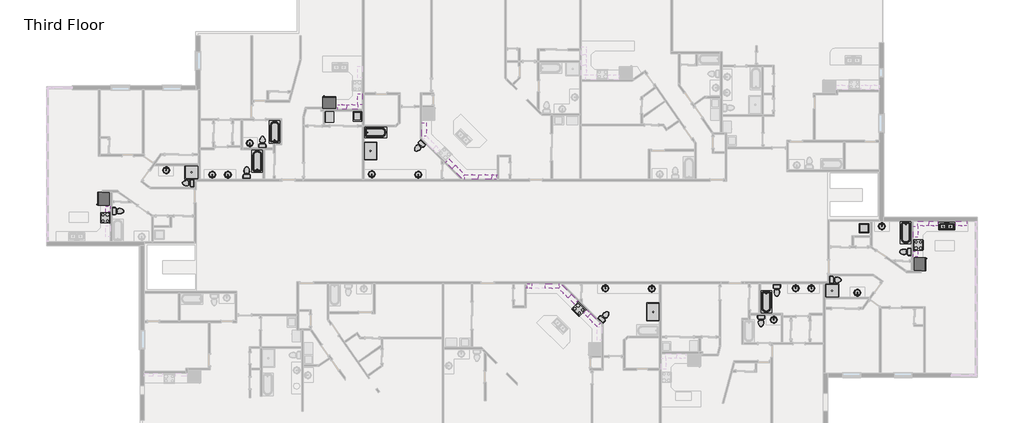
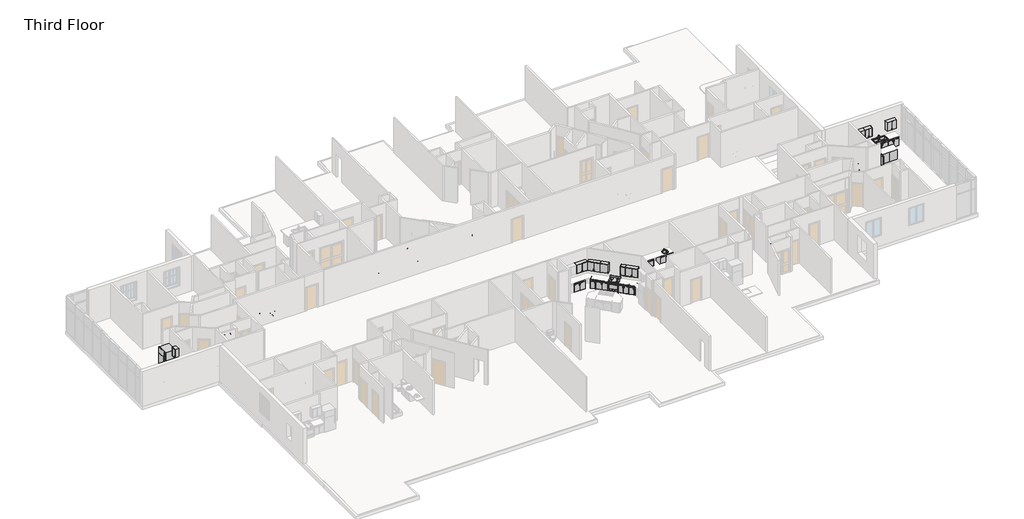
# One storey, part 15 of 17: 66 furniture elements, 33 flow terminals, 9 proxies.
"""IFC4 building model written with IfcOpenShell, lengths in millimetres."""

from ifc_helpers import new_model, si_unit, origin, place, context, project, spatial, transform, mapped, element, save
from components import proxy_6b4a07a9, proxy_fbb4c072, proxy_9109806d, proxy_718fa39f, proxy_f3e01b1d, flow_terminal_54cced83, flow_terminal_5dba0d75, flow_terminal_a53be723, flow_terminal_d49f872f, toilet_domestic_3d_toilet_domestic_3d_f7549cf7, toilet_domestic_3d_toilet_domestic_3d_183bbd19, toilet_domestic_3d_toilet_domestic_3d_a08e12bc, toilet_domestic_3d_toilet_domestic_3d_5530cc89, tub_rectangular_3d_tub_rectangular_3d_72a4d900, tub_rectangular_3d_tub_rectangular_3d_cbc2c449, furniture_0fc2bd2a, furniture_6e8794dd, furniture_07bc9410, furniture_94ff1b7c, furniture_6a014568, furniture_338da5bd, furniture_7de88fd5, furniture_695a55eb, furniture_b6fbc004, furniture_bfd559e3, base_cabinet_filler_base_cabinet_filler_2f0b3f4e, base_cabinet_filler_base_cabinet_filler_5f1ac9d6, base_cabinet_filler_base_cabinet_filler_83579e99, furniture_de2c603d, furniture_b1f16c95, furniture_c6a3367d, upper_cabinet_filler_wall_upper_cabinet_filler_wall_ebdf5134, furniture_d9efccb3, furniture_13c6450d, furniture_a47b5ef4, furniture_b880e30f, furniture_9117db5d, furniture_b34976c1, furniture_fa9c5d5b

model = new_model("IFC4")

# Units and contexts
model_context = context("Model", 3, world=origin())
ifc_project = project(units=[si_unit("LENGTHUNIT", "METRE", prefix="MILLI")], contexts=[model_context])

# Site, building, storey
site = spatial("IfcSite", under=ifc_project)
building = spatial("IfcBuilding", under=site)
storey = spatial("IfcBuildingStorey", under=building, Name="Third Floor", Elevation=6096.0)

# Proxies
placement = place(None, origin())
proxy_shape = proxy_6b4a07a9(model_context)
element("IfcBuildingElementProxy", 1, Name="Dryer : 30\" x 25\" x 35\"", ObjectType="Dryer : 30\" x 25\" x 35\"", at=placement, inside=storey, context=model_context, shape_type="MappedRepresentation", body=[
    mapped(proxy_shape, transform((20016.6056012, 6188.6428501, 6096.0), x_axis=(0.0, 1.0, 0.0), y_axis=(-1.0, 0.0, 0.0), z_axis=(0.0, 0.0, 1.0))),
])
proxy_2_shape = proxy_fbb4c072(model_context)
element("IfcBuildingElementProxy", 2, Name="Range : 30\" x 26\"", ObjectType="Range : 30\" x 26\"", at=placement, inside=storey, context=model_context, shape_type="MappedRepresentation", body=[
    mapped(proxy_2_shape, transform((4220.3003923, 131.5202225, 6096.0), x_axis=(0.0, -1.0, 0.0), y_axis=(1.0, 0.0, 0.0), z_axis=(0.0, 0.0, 1.0))),
])
element("IfcBuildingElementProxy", 3, Name="Range : 30\" x 26\"", ObjectType="Range : 30\" x 26\"", at=placement, inside=storey, context=model_context, shape_type="MappedRepresentation", body=[
    mapped(proxy_2_shape, transform((36146.5032482, -6394.5854043, 6096.0), x_axis=(0.7071067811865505, -0.7071067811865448, 0.0), y_axis=(0.7071067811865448, 0.7071067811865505, 0.0), z_axis=(0.0, 0.0, 1.0))),
])
element("IfcBuildingElementProxy", 4, Name="Range : 30\" x 26\"", ObjectType="Range : 30\" x 26\"", at=placement, inside=storey, context=model_context, shape_type="MappedRepresentation", body=[
    mapped(proxy_2_shape, transform((59969.853994, -2480.7028474, 6096.0), x_axis=(0.0, 1.0, 0.0), y_axis=(-1.0, 0.0, 0.0), z_axis=(0.0, 0.0, 1.0))),
])
proxy_3_shape = proxy_9109806d(model_context)
element("IfcBuildingElementProxy", 5, Name="Refrigerator : 35\" x 32\" RH", ObjectType="Refrigerator : 35\" x 32\" RH", at=placement, inside=storey, context=model_context, shape_type="MappedRepresentation", body=[
    mapped(proxy_3_shape, transform((4425.725539, 1036.2685137, 6096.0), x_axis=(0.0, -1.0, 0.0), y_axis=(1.0, 0.0, 0.0), z_axis=(0.0, 0.0, 1.0))),
])
element("IfcBuildingElementProxy", 6, Name="Refrigerator : 35\" x 32\" RH", ObjectType="Refrigerator : 35\" x 32\" RH", at=placement, inside=storey, context=model_context, shape_type="MappedRepresentation", body=[
    mapped(proxy_3_shape, transform((19720.4542781, 7559.8584529, 6096.0), x_axis=(-1.0, 0.0, 0.0), y_axis=(0.0, -1.0, 0.0), z_axis=(0.0, 0.0, 1.0))),
])
element("IfcBuildingElementProxy", 7, Name="Refrigerator : 35\" x 32\" RH", ObjectType="Refrigerator : 35\" x 32\" RH", at=placement, inside=storey, context=model_context, shape_type="MappedRepresentation", body=[
    mapped(proxy_3_shape, transform((59764.4288473, -3385.4511385, 6096.0), x_axis=(0.0, 1.0, 0.0), y_axis=(-1.0, 0.0, 0.0), z_axis=(0.0, 0.0, 1.0))),
])
proxy_4_shape = proxy_718fa39f(model_context)
element("IfcBuildingElementProxy", 8, Name="Washer : 27\" x 25\" x 35\"", ObjectType="Washer : 27\" x 25\" x 35\"", at=placement, inside=storey, context=model_context, shape_type="MappedRepresentation", body=[
    mapped(proxy_4_shape, transform((21369.2577923, 7066.4225435, 6096.0), x_axis=(0.0, -1.0, 0.0), y_axis=(1.0, 0.0, 0.0), z_axis=(0.0, 0.0, 1.0))),
])
proxy_5_shape = proxy_f3e01b1d(model_context)
element("IfcBuildingElementProxy", 9, Name="Washer_Dryer_Combo : 24\"", ObjectType="Washer_Dryer_Combo : 24\"", at=placement, inside=storey, context=model_context, shape_type="MappedRepresentation", body=[
    mapped(proxy_5_shape, transform((56408.3907443, -949.2863988, 6096.0), x_axis=(0.0, -1.0, 0.0), y_axis=(1.0, 0.0, 0.0), z_axis=(0.0, 0.0, 1.0))),
])

# Flow terminals
flow_terminal_shape = flow_terminal_54cced83(model_context)
element("IfcFlowTerminal", 10, ObjectType="Shower Base-3D : 36\" x 36\"", at=placement, inside=storey, context=model_context, shape_type="MappedRepresentation", body=[
    mapped(flow_terminal_shape, transform((10380.0467971, 2838.6124849, 6096.0), x_axis=(0.0, 1.0, 0.0), y_axis=(-1.0, 0.0, 0.0), z_axis=(0.0, 0.0, 1.0))),
])
element("IfcFlowTerminal", 11, ObjectType="Shower Base-3D : 36\" x 36\"", at=placement, inside=storey, context=model_context, shape_type="MappedRepresentation", body=[
    mapped(flow_terminal_shape, transform((53810.1075892, -5187.7951097, 6096.0), x_axis=(0.0, -1.0, 0.0), y_axis=(1.0, 0.0, 0.0), z_axis=(0.0, 0.0, 1.0))),
])
flow_terminal_2_shape = flow_terminal_5dba0d75(model_context)
element("IfcFlowTerminal", 12, ObjectType="Shower Base-3D : 48\" x 34\"", at=placement, inside=storey, context=model_context, shape_type="MappedRepresentation", body=[
    mapped(flow_terminal_2_shape, transform((22513.3830518, 4283.4091714, 6096.0), x_axis=(0.0, -1.0, 0.0), y_axis=(1.0, 0.0, 0.0), z_axis=(0.0, 0.0, 1.0))),
])
element("IfcFlowTerminal", 13, ObjectType="Shower Base-3D : 48\" x 34\"", at=placement, inside=storey, context=model_context, shape_type="MappedRepresentation", body=[
    mapped(flow_terminal_2_shape, transform((41676.7713345, -6632.5917963, 6096.0), x_axis=(0.0, 1.0, 0.0), y_axis=(-1.0, 0.0, 0.0), z_axis=(0.0, 0.0, 1.0))),
])
flow_terminal_3_shape = flow_terminal_a53be723(model_context)
element("IfcFlowTerminal", 14, ObjectType="Sink Kitchen-Double : 42\" x 21\"", at=placement, inside=storey, context=model_context, shape_type="MappedRepresentation", body=[
    mapped(flow_terminal_3_shape, transform((61579.7647534, -809.7591569, 6096.0), x_axis=(1.0, 0.0, 0.0), y_axis=(0.0, 1.0, 0.0), z_axis=(0.0, 0.0, 1.0))),
])
flow_terminal_4_shape = flow_terminal_d49f872f(model_context)
element("IfcFlowTerminal", 15, ObjectType="Sink Vanity-Round : 19\" x 19\"", at=placement, inside=storey, context=model_context, shape_type="MappedRepresentation", body=[
    mapped(flow_terminal_4_shape, transform((14429.6552962, 4892.9733129, 6096.0), x_axis=(-1.0, 0.0, 0.0), y_axis=(0.0, -1.0, 0.0), z_axis=(0.0, 0.0, 1.0))),
])
element("IfcFlowTerminal", 16, ObjectType="Sink Vanity-Round : 19\" x 19\"", at=placement, inside=storey, context=model_context, shape_type="MappedRepresentation", body=[
    mapped(flow_terminal_4_shape, transform((8560.7111773, 2889.4483435, 6096.0), x_axis=(1.0, 0.0, 0.0), y_axis=(0.0, 1.0, 0.0), z_axis=(0.0, 0.0, 1.0))),
])
element("IfcFlowTerminal", 17, ObjectType="Sink Vanity-Round : 19\" x 19\"", at=placement, inside=storey, context=model_context, shape_type="MappedRepresentation", body=[
    mapped(flow_terminal_4_shape, transform((12946.89091, 2757.2346539, 6096.0), x_axis=(-1.0, 0.0, 0.0), y_axis=(0.0, -1.0, 0.0), z_axis=(0.0, 0.0, 1.0))),
])
element("IfcFlowTerminal", 18, ObjectType="Sink Vanity-Round : 19\" x 19\"", at=placement, inside=storey, context=model_context, shape_type="MappedRepresentation", body=[
    mapped(flow_terminal_4_shape, transform((11880.09091, 2769.0116592, 6096.0), x_axis=(-1.0, 0.0, 0.0), y_axis=(0.0, -1.0, 0.0), z_axis=(0.0, 0.0, 1.0))),
])
element("IfcFlowTerminal", 19, ObjectType="Sink Vanity-Round : 19\" x 19\"", at=placement, inside=storey, context=model_context, shape_type="MappedRepresentation", body=[
    mapped(flow_terminal_4_shape, transform((25848.431225, 2766.506956, 6096.0), x_axis=(-0.9999992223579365, 0.0012471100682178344, 0.0), y_axis=(-0.0012471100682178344, -0.9999992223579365, 0.0), z_axis=(0.0, 0.0, 1.0))),
])
element("IfcFlowTerminal", 20, ObjectType="Sink Vanity-Round : 19\" x 19\"", at=placement, inside=storey, context=model_context, shape_type="MappedRepresentation", body=[
    mapped(flow_terminal_4_shape, transform((22697.558797, 2783.0261745, 6096.0), x_axis=(-0.9999968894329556, 0.002494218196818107, 0.0), y_axis=(-0.002494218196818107, -0.9999968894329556, 0.0), z_axis=(0.0, 0.0, 1.0))),
])
element("IfcFlowTerminal", 21, ObjectType="Sink Vanity-Round : 19\" x 19\"", at=placement, inside=storey, context=model_context, shape_type="MappedRepresentation", body=[
    mapped(flow_terminal_4_shape, transform((49760.4990901, -7242.1559377, 6096.0), x_axis=(1.0, 0.0, 0.0), y_axis=(0.0, 1.0, 0.0), z_axis=(0.0, 0.0, 1.0))),
])
element("IfcFlowTerminal", 22, ObjectType="Sink Vanity-Round : 19\" x 19\"", at=placement, inside=storey, context=model_context, shape_type="MappedRepresentation", body=[
    mapped(flow_terminal_4_shape, transform((57094.1764749, -902.6278973, 6096.0), x_axis=(1.0, 0.0, 0.0), y_axis=(0.0, 1.0, 0.0), z_axis=(0.0, 0.0, 1.0))),
])
element("IfcFlowTerminal", 23, ObjectType="Sink Vanity-Round : 19\" x 19\"", at=placement, inside=storey, context=model_context, shape_type="MappedRepresentation", body=[
    mapped(flow_terminal_4_shape, transform((55629.443209, -5238.6309683, 6096.0), x_axis=(-1.0, 0.0, 0.0), y_axis=(0.0, -1.0, 0.0), z_axis=(0.0, 0.0, 1.0))),
])
element("IfcFlowTerminal", 24, ObjectType="Sink Vanity-Round : 19\" x 19\"", at=placement, inside=storey, context=model_context, shape_type="MappedRepresentation", body=[
    mapped(flow_terminal_4_shape, transform((51243.2634763, -5106.4172787, 6096.0), x_axis=(1.0, 0.0, 0.0), y_axis=(0.0, 1.0, 0.0), z_axis=(0.0, 0.0, 1.0))),
])
element("IfcFlowTerminal", 25, ObjectType="Sink Vanity-Round : 19\" x 19\"", at=placement, inside=storey, context=model_context, shape_type="MappedRepresentation", body=[
    mapped(flow_terminal_4_shape, transform((52310.0634763, -5118.194284, 6096.0), x_axis=(1.0, 0.0, 0.0), y_axis=(0.0, 1.0, 0.0), z_axis=(0.0, 0.0, 1.0))),
])
element("IfcFlowTerminal", 26, ObjectType="Sink Vanity-Round : 19\" x 19\"", at=placement, inside=storey, context=model_context, shape_type="MappedRepresentation", body=[
    mapped(flow_terminal_4_shape, transform((38341.7231613, -5115.6895809, 6096.0), x_axis=(0.9999992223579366, -0.0012471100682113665, 0.0), y_axis=(0.0012471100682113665, 0.9999992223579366, 0.0), z_axis=(0.0, 0.0, 1.0))),
])
element("IfcFlowTerminal", 27, ObjectType="Sink Vanity-Round : 19\" x 19\"", at=placement, inside=storey, context=model_context, shape_type="MappedRepresentation", body=[
    mapped(flow_terminal_4_shape, transform((41492.5955893, -5132.2087994, 6096.0), x_axis=(0.9999968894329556, -0.0024942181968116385, 0.0), y_axis=(0.0024942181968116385, 0.9999968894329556, 0.0), z_axis=(0.0, 0.0, 1.0))),
])
toilet_domestic_3d_toilet_domestic_3d_shape = toilet_domestic_3d_toilet_domestic_3d_f7549cf7(model_context)
toilet_domestic_3d_toilet_domestic_3d_2_shape = toilet_domestic_3d_toilet_domestic_3d_183bbd19(model_context)
element("IfcFlowTerminal", 28, ObjectType="Toilet-Domestic-3D : Toilet-Domestic-3D", at=placement, inside=storey, context=model_context, shape_type="MappedRepresentation", body=[
    mapped(toilet_domestic_3d_toilet_domestic_3d_shape, transform((14122.4, 2916.9069921, 6096.0), x_axis=(-1.0, 0.0, 0.0), y_axis=(0.0, -1.0, 0.0), z_axis=(0.0, 0.0, 1.0))),
    mapped(toilet_domestic_3d_toilet_domestic_3d_2_shape, transform((14122.4, 2916.9069921, 6096.0), x_axis=(-1.0, 0.0, 0.0), y_axis=(0.0, -1.0, 0.0), z_axis=(0.0, 0.0, 1.0))),
])
element("IfcFlowTerminal", 29, ObjectType="Toilet-Domestic-3D : Toilet-Domestic-3D", at=placement, inside=storey, context=model_context, shape_type="MappedRepresentation", body=[
    mapped(toilet_domestic_3d_toilet_domestic_3d_shape, transform((15189.2, 4981.3051988, 6096.0), x_axis=(-1.0, 0.0, 0.0), y_axis=(0.0, -1.0, 0.0), z_axis=(0.0, 0.0, 1.0))),
    mapped(toilet_domestic_3d_toilet_domestic_3d_2_shape, transform((15189.2, 4981.3051988, 6096.0), x_axis=(-1.0, 0.0, 0.0), y_axis=(0.0, -1.0, 0.0), z_axis=(0.0, 0.0, 1.0))),
])
element("IfcFlowTerminal", 30, ObjectType="Toilet-Domestic-3D : Toilet-Domestic-3D", at=placement, inside=storey, context=model_context, shape_type="MappedRepresentation", body=[
    mapped(toilet_domestic_3d_toilet_domestic_3d_shape, transform((5489.6964197, 205.0443161, 6096.0), x_axis=(0.0, 1.0, 0.0), y_axis=(-1.0, 0.0, 0.0), z_axis=(0.0, 0.0, 1.0))),
    mapped(toilet_domestic_3d_toilet_domestic_3d_2_shape, transform((5489.6964197, 205.0443161, 6096.0), x_axis=(0.0, 1.0, 0.0), y_axis=(-1.0, 0.0, 0.0), z_axis=(0.0, 0.0, 1.0))),
])
element("IfcFlowTerminal", 31, ObjectType="Toilet-Domestic-3D : Toilet-Domestic-3D", at=placement, inside=storey, context=model_context, shape_type="MappedRepresentation", body=[
    mapped(toilet_domestic_3d_toilet_domestic_3d_shape, transform((50067.7543863, -5266.0896169, 6096.0), x_axis=(1.0, 0.0, 0.0), y_axis=(0.0, 1.0, 0.0), z_axis=(0.0, 0.0, 1.0))),
    mapped(toilet_domestic_3d_toilet_domestic_3d_2_shape, transform((50067.7543863, -5266.0896169, 6096.0), x_axis=(1.0, 0.0, 0.0), y_axis=(0.0, 1.0, 0.0), z_axis=(0.0, 0.0, 1.0))),
])
element("IfcFlowTerminal", 32, ObjectType="Toilet-Domestic-3D : Toilet-Domestic-3D", at=placement, inside=storey, context=model_context, shape_type="MappedRepresentation", body=[
    mapped(toilet_domestic_3d_toilet_domestic_3d_shape, transform((49000.9543863, -7330.4878236, 6096.0), x_axis=(1.0, 0.0, 0.0), y_axis=(0.0, 1.0, 0.0), z_axis=(0.0, 0.0, 1.0))),
    mapped(toilet_domestic_3d_toilet_domestic_3d_2_shape, transform((49000.9543863, -7330.4878236, 6096.0), x_axis=(1.0, 0.0, 0.0), y_axis=(0.0, 1.0, 0.0), z_axis=(0.0, 0.0, 1.0))),
])
element("IfcFlowTerminal", 33, ObjectType="Toilet-Domestic-3D : Toilet-Domestic-3D", at=placement, inside=storey, context=model_context, shape_type="MappedRepresentation", body=[
    mapped(toilet_domestic_3d_toilet_domestic_3d_shape, transform((58700.4579666, -2554.2269409, 6096.0), x_axis=(0.0, -1.0, 0.0), y_axis=(1.0, 0.0, 0.0), z_axis=(0.0, 0.0, 1.0))),
    mapped(toilet_domestic_3d_toilet_domestic_3d_2_shape, transform((58700.4579666, -2554.2269409, 6096.0), x_axis=(0.0, -1.0, 0.0), y_axis=(1.0, 0.0, 0.0), z_axis=(0.0, 0.0, 1.0))),
])
toilet_domestic_3d_toilet_domestic_3d_3_shape = toilet_domestic_3d_toilet_domestic_3d_a08e12bc(model_context)
toilet_domestic_3d_toilet_domestic_3d_4_shape = toilet_domestic_3d_toilet_domestic_3d_5530cc89(model_context)
element("IfcFlowTerminal", 34, ObjectType="Toilet-Domestic-3D : Toilet-Domestic-3D", at=placement, inside=storey, context=model_context, shape_type="MappedRepresentation", body=[
    mapped(toilet_domestic_3d_toilet_domestic_3d_3_shape, transform((25747.809259, 4514.7153485, 6096.0), x_axis=(-0.7196179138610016, 0.6943702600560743, 0.0), y_axis=(-0.6943702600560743, -0.7196179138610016, 0.0), z_axis=(0.0, 0.0, 1.0))),
    mapped(toilet_domestic_3d_toilet_domestic_3d_4_shape, transform((25747.809259, 4514.7153485, 6096.0), x_axis=(-0.7196179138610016, 0.6943702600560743, 0.0), y_axis=(-0.6943702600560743, -0.7196179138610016, 0.0), z_axis=(0.0, 0.0, 1.0))),
])
element("IfcFlowTerminal", 35, ObjectType="Toilet-Domestic-3D : Toilet-Domestic-3D", at=placement, inside=storey, context=model_context, shape_type="MappedRepresentation", body=[
    mapped(toilet_domestic_3d_toilet_domestic_3d_3_shape, transform((10058.4, 2108.2, 6096.0), x_axis=(-0.0047058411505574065, 0.9999889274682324, 0.0), y_axis=(-0.9999889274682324, -0.0047058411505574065, 0.0), z_axis=(0.0, 0.0, 1.0))),
    mapped(toilet_domestic_3d_toilet_domestic_3d_4_shape, transform((10058.4, 2108.2, 6096.0), x_axis=(-0.0047058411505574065, 0.9999889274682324, 0.0), y_axis=(-0.9999889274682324, -0.0047058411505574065, 0.0), z_axis=(0.0, 0.0, 1.0))),
])
element("IfcFlowTerminal", 36, ObjectType="Toilet-Domestic-3D : Toilet-Domestic-3D", at=placement, inside=storey, context=model_context, shape_type="MappedRepresentation", body=[
    mapped(toilet_domestic_3d_toilet_domestic_3d_3_shape, transform((38442.3451273, -6863.8979733, 6096.0), x_axis=(0.719617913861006, -0.6943702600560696, 0.0), y_axis=(0.6943702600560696, 0.719617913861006, 0.0), z_axis=(0.0, 0.0, 1.0))),
    mapped(toilet_domestic_3d_toilet_domestic_3d_4_shape, transform((38442.3451273, -6863.8979733, 6096.0), x_axis=(0.719617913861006, -0.6943702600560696, 0.0), y_axis=(0.6943702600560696, 0.719617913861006, 0.0), z_axis=(0.0, 0.0, 1.0))),
])
element("IfcFlowTerminal", 37, ObjectType="Toilet-Domestic-3D : Toilet-Domestic-3D", at=placement, inside=storey, context=model_context, shape_type="MappedRepresentation", body=[
    mapped(toilet_domestic_3d_toilet_domestic_3d_3_shape, transform((54131.7543863, -4457.3826248, 6096.0), x_axis=(0.004705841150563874, -0.9999889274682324, 0.0), y_axis=(0.9999889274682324, 0.004705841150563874, 0.0), z_axis=(0.0, 0.0, 1.0))),
    mapped(toilet_domestic_3d_toilet_domestic_3d_4_shape, transform((54131.7543863, -4457.3826248, 6096.0), x_axis=(0.004705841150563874, -0.9999889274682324, 0.0), y_axis=(0.9999889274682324, 0.004705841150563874, 0.0), z_axis=(0.0, 0.0, 1.0))),
])
tub_rectangular_3d_tub_rectangular_3d_shape = tub_rectangular_3d_tub_rectangular_3d_72a4d900(model_context)
element("IfcFlowTerminal", 38, ObjectType="Tub-Rectangular-3D : Tub-Rectangular-3D", at=placement, inside=storey, context=model_context, shape_type="MappedRepresentation", body=[
    mapped(tub_rectangular_3d_tub_rectangular_3d_shape, transform((15278.2993195, 3946.2121401, 6096.0), x_axis=(0.0, 1.0, 0.0), y_axis=(-1.0, 0.0, 0.0), z_axis=(0.0, 0.0, 1.0))),
])
element("IfcFlowTerminal", 39, ObjectType="Tub-Rectangular-3D : Tub-Rectangular-3D", at=placement, inside=storey, context=model_context, shape_type="MappedRepresentation", body=[
    mapped(tub_rectangular_3d_tub_rectangular_3d_shape, transform((16456.2083594, 5935.4931457, 6096.0), x_axis=(0.0, 1.0, 0.0), y_axis=(-1.0, 0.0, 0.0), z_axis=(0.0, 0.0, 1.0))),
])
element("IfcFlowTerminal", 40, ObjectType="Tub-Rectangular-3D : Tub-Rectangular-3D", at=placement, inside=storey, context=model_context, shape_type="MappedRepresentation", body=[
    mapped(tub_rectangular_3d_tub_rectangular_3d_shape, transform((48911.8550668, -6295.394765, 6096.0), x_axis=(0.0, -1.0, 0.0), y_axis=(1.0, 0.0, 0.0), z_axis=(0.0, 0.0, 1.0))),
])
tub_rectangular_3d_tub_rectangular_3d_2_shape = tub_rectangular_3d_tub_rectangular_3d_cbc2c449(model_context)
element("IfcFlowTerminal", 41, ObjectType="Tub-Rectangular-3D : Tub-Rectangular-3D", at=placement, inside=storey, context=model_context, shape_type="MappedRepresentation", body=[
    mapped(tub_rectangular_3d_tub_rectangular_3d_2_shape, transform((23209.8603258, 5986.0380642, 6096.0), x_axis=(1.0, 0.0, 0.0), y_axis=(0.0, 1.0, 0.0), z_axis=(0.0, 0.0, 1.0))),
])
element("IfcFlowTerminal", 42, ObjectType="Tub-Rectangular-3D : Tub-Rectangular-3D", at=placement, inside=storey, context=model_context, shape_type="MappedRepresentation", body=[
    mapped(tub_rectangular_3d_tub_rectangular_3d_2_shape, transform((59252.303994, -1606.8667245, 6096.0), x_axis=(0.0, -1.0, 0.0), y_axis=(1.0, 0.0, 0.0), z_axis=(0.0, 0.0, 1.0))),
])

# Furniture
furniture_shape = furniture_0fc2bd2a(model_context)
element("IfcFurniture", 43, ObjectType="Base Cabinet-Single Door & Drawer : 15\"'", at=placement, inside=storey, context=model_context, shape_type="MappedRepresentation", body=[
    mapped(furniture_shape, transform((28365.0552156, 2777.7431755, 6096.0), x_axis=(-0.7071067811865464, 0.7071067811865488, 0.0), y_axis=(-0.7071067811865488, -0.7071067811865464, 0.0), z_axis=(0.0, 0.0, 1.0))),
])
element("IfcFurniture", 44, ObjectType="Base Cabinet-Single Door & Drawer : 15\"'", at=placement, inside=storey, context=model_context, shape_type="MappedRepresentation", body=[
    mapped(furniture_shape, transform((35825.0991707, -5126.9258003, 6096.0), x_axis=(0.7071067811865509, -0.7071067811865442, 0.0), y_axis=(0.7071067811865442, 0.7071067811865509, 0.0), z_axis=(0.0, 0.0, 1.0))),
])
element("IfcFurniture", 45, ObjectType="Base Cabinet-Single Door & Drawer : 15\"'", at=placement, inside=storey, context=model_context, shape_type="MappedRepresentation", body=[
    mapped(furniture_shape, transform((37810.919328, -7127.7174378, 6096.0), x_axis=(0.7056789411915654, -0.7085317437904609, 0.0), y_axis=(0.7085317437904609, 0.7056789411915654, 0.0), z_axis=(0.0, 0.0, 1.0))),
])
furniture_2_shape = furniture_6e8794dd(model_context)
element("IfcFurniture", 46, ObjectType="Base Cabinet-Single Door & Drawer : 12\"", at=placement, inside=storey, context=model_context, shape_type="MappedRepresentation", body=[
    mapped(furniture_2_shape, transform((59309.453994, -1583.9741037, 6096.0), x_axis=(0.0, 1.0, 0.0), y_axis=(-1.0, 0.0, 0.0), z_axis=(0.0, 0.0, 1.0))),
])
furniture_3_shape = furniture_07bc9410(model_context)
element("IfcFurniture", 47, ObjectType="Base Cabinet-Single Door & Drawer : 18\"", at=placement, inside=storey, context=model_context, shape_type="MappedRepresentation", body=[
    mapped(furniture_3_shape, transform((4880.7003923, 341.3825176, 6096.0), x_axis=(0.0, 1.0, 0.0), y_axis=(-1.0, 0.0, 0.0), z_axis=(0.0, 0.0, 1.0))),
])
element("IfcFurniture", 48, ObjectType="Base Cabinet-Single Door & Drawer : 18\"", at=placement, inside=storey, context=model_context, shape_type="MappedRepresentation", body=[
    mapped(furniture_3_shape, transform((59309.453994, -2690.5651424, 6096.0), x_axis=(0.0, -1.0, 0.0), y_axis=(1.0, 0.0, 0.0), z_axis=(0.0, 0.0, 1.0))),
])
furniture_4_shape = furniture_94ff1b7c(model_context)
element("IfcFurniture", 49, ObjectType="Base Cabinet-Single Door & Drawer : 24\"", at=placement, inside=storey, context=model_context, shape_type="MappedRepresentation", body=[
    mapped(furniture_4_shape, transform((3057.9741763, 98.2194727, 6096.0), x_axis=(-1.0, 0.0, 0.0), y_axis=(0.0, -1.0, 0.0), z_axis=(0.0, 0.0, 1.0))),
])
element("IfcFurniture", 50, ObjectType="Base Cabinet-Single Door & Drawer : 24\"", at=placement, inside=storey, context=model_context, shape_type="MappedRepresentation", body=[
    mapped(furniture_4_shape, transform((61132.18021, -2447.4020975, 6096.0), x_axis=(1.0, 0.0, 0.0), y_axis=(0.0, 1.0, 0.0), z_axis=(0.0, 0.0, 1.0))),
])
furniture_5_shape = furniture_6a014568(model_context)
element("IfcFurniture", 51, ObjectType="Base Cabinet-Single Door & Drawer : 24\"", at=placement, inside=storey, context=model_context, shape_type="MappedRepresentation", body=[
    mapped(furniture_5_shape, transform((2410.8987665, 98.2194727, 6096.0), x_axis=(1.0, 0.0, 0.0), y_axis=(0.0, 1.0, 0.0), z_axis=(0.0, 0.0, 1.0))),
])
element("IfcFurniture", 52, ObjectType="Base Cabinet-Single Door & Drawer : 24\"", at=placement, inside=storey, context=model_context, shape_type="MappedRepresentation", body=[
    mapped(furniture_5_shape, transform((61779.2556198, -2447.4020975, 6096.0), x_axis=(-1.0, 0.0, 0.0), y_axis=(0.0, -1.0, 0.0), z_axis=(0.0, 0.0, 1.0))),
])
furniture_6_shape = furniture_338da5bd(model_context)
element("IfcFurniture", 53, ObjectType="Base Cabinet-Double Door & 2 Drawer : 30\"", at=placement, inside=storey, context=model_context, shape_type="MappedRepresentation", body=[
    mapped(furniture_6_shape, transform((26782.2215797, 4373.9191641, 6096.0), x_axis=(-0.7056789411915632, 0.7085317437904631, 0.0), y_axis=(-0.7085317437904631, -0.7056789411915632, 0.0), z_axis=(0.0, 0.0, 1.0))),
])
element("IfcFurniture", 54, ObjectType="Base Cabinet-Double Door & 2 Drawer : 30\"", at=placement, inside=storey, context=model_context, shape_type="MappedRepresentation", body=[
    mapped(furniture_6_shape, transform((37407.9328066, -6723.1017889, 6096.0), x_axis=(0.7056789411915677, -0.7085317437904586, 0.0), y_axis=(0.7085317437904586, 0.7056789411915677, 0.0), z_axis=(0.0, 0.0, 1.0))),
])
furniture_7_shape = furniture_7de88fd5(model_context)
element("IfcFurniture", 55, ObjectType="Base Cabinet-Double Door & 2 Drawer : 33\"", at=placement, inside=storey, context=model_context, shape_type="MappedRepresentation", body=[
    mapped(furniture_7_shape, transform((20651.145062, 7103.205075, 6096.0), x_axis=(-1.0, 0.0, 0.0), y_axis=(0.0, -1.0, 0.0), z_axis=(0.0, 0.0, 1.0))),
])
furniture_8_shape = furniture_695a55eb(model_context)
element("IfcFurniture", 56, ObjectType="Base Cabinet-Double Door & 2 Drawer : 36\"", at=placement, inside=storey, context=model_context, shape_type="MappedRepresentation", body=[
    mapped(furniture_8_shape, transform((62528.5916989, -502.6137558, 6096.0), x_axis=(-1.0, 0.0, 0.0), y_axis=(0.0, -1.0, 0.0), z_axis=(0.0, 0.0, 1.0))),
])
element("IfcFurniture", 57, ObjectType="Base Cabinet-Double Door & 2 Drawer : 36\"", at=placement, inside=storey, context=model_context, shape_type="MappedRepresentation", body=[
    mapped(furniture_8_shape, transform((61614.1916989, -502.6137558, 6096.0), x_axis=(-1.0, 0.0, 0.0), y_axis=(0.0, -1.0, 0.0), z_axis=(0.0, 0.0, 1.0))),
])
element("IfcFurniture", 58, ObjectType="Base Cabinet-Double Door & 2 Drawer : 36\"", at=placement, inside=storey, context=model_context, shape_type="MappedRepresentation", body=[
    mapped(furniture_8_shape, transform((60699.7916989, -502.6137558, 6096.0), x_axis=(-1.0, 0.0, 0.0), y_axis=(0.0, -1.0, 0.0), z_axis=(0.0, 0.0, 1.0))),
])
furniture_9_shape = furniture_b6fbc004(model_context)
element("IfcFurniture", 59, ObjectType="Base Cabinet-Double Door & 2 Drawer : 36\"", at=placement, inside=storey, context=model_context, shape_type="MappedRepresentation", body=[
    mapped(furniture_9_shape, transform((30655.8953946, 2359.3591714, 6096.0), x_axis=(-1.0, 0.0, 0.0), y_axis=(0.0, -1.0, 0.0), z_axis=(0.0, 0.0, 1.0))),
])
element("IfcFurniture", 60, ObjectType="Base Cabinet-Double Door & 2 Drawer : 36\"", at=placement, inside=storey, context=model_context, shape_type="MappedRepresentation", body=[
    mapped(furniture_9_shape, transform((29741.4953946, 2359.3591714, 6096.0), x_axis=(-1.0, 0.0, 0.0), y_axis=(0.0, -1.0, 0.0), z_axis=(0.0, 0.0, 1.0))),
])
element("IfcFurniture", 61, ObjectType="Base Cabinet-Double Door & 2 Drawer : 36\"", at=placement, inside=storey, context=model_context, shape_type="MappedRepresentation", body=[
    mapped(furniture_9_shape, transform((27907.0621534, 3235.7362377, 6096.0), x_axis=(-0.7071067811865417, 0.7071067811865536, 0.0), y_axis=(-0.7071067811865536, -0.7071067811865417, 0.0), z_axis=(0.0, 0.0, 1.0))),
])
element("IfcFurniture", 62, ObjectType="Base Cabinet-Double Door & 2 Drawer : 36\"", at=placement, inside=storey, context=model_context, shape_type="MappedRepresentation", body=[
    mapped(furniture_9_shape, transform((25998.6143708, 5897.3510915, 6096.0), x_axis=(0.0, 1.0, 0.0), y_axis=(-1.0, 0.0, 0.0), z_axis=(0.0, 0.0, 1.0))),
])
element("IfcFurniture", 63, ObjectType="Base Cabinet-Double Door & 2 Drawer : 36\"", at=placement, inside=storey, context=model_context, shape_type="MappedRepresentation", body=[
    mapped(furniture_9_shape, transform((34448.6589917, -4708.5417963, 6096.0), x_axis=(1.0, 0.0, 0.0), y_axis=(0.0, 1.0, 0.0), z_axis=(0.0, 0.0, 1.0))),
])
element("IfcFurniture", 64, ObjectType="Base Cabinet-Double Door & 2 Drawer : 36\"", at=placement, inside=storey, context=model_context, shape_type="MappedRepresentation", body=[
    mapped(furniture_9_shape, transform((36283.0922328, -5584.9188625, 6096.0), x_axis=(0.7071067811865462, -0.707106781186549, 0.0), y_axis=(0.707106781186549, 0.7071067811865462, 0.0), z_axis=(0.0, 0.0, 1.0))),
])
furniture_10_shape = furniture_bfd559e3(model_context)
element("IfcFurniture", 65, ObjectType="Base Cabinet-Corner Unit-Angled : 36\"", at=placement, inside=storey, context=model_context, shape_type="MappedRepresentation", body=[
    mapped(furniture_10_shape, transform((21965.9073571, 7629.9427799, 6096.0), x_axis=(0.0, -1.0, 0.0), y_axis=(1.0, 0.0, 0.0), z_axis=(0.0, 0.0, 1.0))),
])
element("IfcFurniture", 66, ObjectType="Base Cabinet-Corner Unit-Angled : 36\"", at=placement, inside=storey, context=model_context, shape_type="MappedRepresentation", body=[
    mapped(furniture_10_shape, transform((59309.453994, -1029.3514607, 6096.0), x_axis=(0.0, 1.0, 0.0), y_axis=(-1.0, 0.0, 0.0), z_axis=(0.0, 0.0, 1.0))),
])
base_cabinet_filler_base_cabinet_filler_shape = base_cabinet_filler_base_cabinet_filler_2f0b3f4e(model_context)
element("IfcFurniture", 67, ObjectType="Base Cabinet-Filler : Base Cabinet-Filler", at=placement, inside=storey, context=model_context, shape_type="MappedRepresentation", body=[
    mapped(base_cabinet_filler_base_cabinet_filler_shape, transform((25998.6143708, 5415.9043221, 6096.0), x_axis=(0.0, 1.0, 0.0), y_axis=(-1.0, 0.0, 0.0), z_axis=(0.0, 0.0, 1.0))),
])
element("IfcFurniture", 68, ObjectType="Base Cabinet-Filler : Base Cabinet-Filler", at=placement, inside=storey, context=model_context, shape_type="MappedRepresentation", body=[
    mapped(base_cabinet_filler_base_cabinet_filler_shape, transform((38191.5400155, -7765.086947, 6096.0), x_axis=(0.0, -1.0, 0.0), y_axis=(1.0, 0.0, 0.0), z_axis=(0.0, 0.0, 1.0))),
])
base_cabinet_filler_base_cabinet_filler_2_shape = base_cabinet_filler_base_cabinet_filler_5f1ac9d6(model_context)
element("IfcFurniture", 69, ObjectType="Base Cabinet-Filler : Base Cabinet-Filler", at=placement, inside=storey, context=model_context, shape_type="MappedRepresentation", body=[
    mapped(base_cabinet_filler_base_cabinet_filler_2_shape, transform((37971.6753186, -7289.0685883, 6096.0), x_axis=(0.7071067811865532, -0.7071067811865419, 0.0), y_axis=(0.7071067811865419, 0.7071067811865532, 0.0), z_axis=(0.0, 0.0, 1.0))),
])
base_cabinet_filler_base_cabinet_filler_3_shape = base_cabinet_filler_base_cabinet_filler_83579e99(model_context)
element("IfcFurniture", 70, ObjectType="Base Cabinet-Filler : Base Cabinet-Filler", at=placement, inside=storey, context=model_context, shape_type="MappedRepresentation", body=[
    mapped(base_cabinet_filler_base_cabinet_filler_3_shape, transform((20204.6935225, 7103.205075, 6096.0), x_axis=(-1.0, 0.0, 0.0), y_axis=(0.0, -1.0, 0.0), z_axis=(0.0, 0.0, 1.0))),
])
furniture_11_shape = furniture_de2c603d(model_context)
element("IfcFurniture", 71, ObjectType="Upper Cabinet-Double Door-Wall : 24\"", at=placement, inside=storey, context=model_context, shape_type="MappedRepresentation", body=[
    mapped(furniture_11_shape, transform((20564.5361943, 7046.055075, 6096.0), x_axis=(1.0, 0.0, 0.0), y_axis=(0.0, 1.0, 0.0), z_axis=(0.0, 0.0, 1.0))),
])
element("IfcFurniture", 72, ObjectType="Upper Cabinet-Double Door-Wall : 24\"", at=placement, inside=storey, context=model_context, shape_type="MappedRepresentation", body=[
    mapped(furniture_11_shape, transform((60710.8251568, -428.0012558, 6096.0), x_axis=(-1.0, 0.0, 0.0), y_axis=(0.0, -1.0, 0.0), z_axis=(0.0, 0.0, 1.0))),
])
furniture_12_shape = furniture_b1f16c95(model_context)
element("IfcFurniture", 73, ObjectType="Upper Cabinet-Double Door-Wall : 30\"", at=placement, inside=storey, context=model_context, shape_type="MappedRepresentation", body=[
    mapped(furniture_12_shape, transform((21250.3361943, 7046.055075, 6096.0), x_axis=(1.0, 0.0, 0.0), y_axis=(0.0, 1.0, 0.0), z_axis=(0.0, 0.0, 1.0))),
])
element("IfcFurniture", 74, ObjectType="Upper Cabinet-Double Door-Wall : 30\"", at=placement, inside=storey, context=model_context, shape_type="MappedRepresentation", body=[
    mapped(furniture_12_shape, transform((22023.0573571, 7759.2339122, 6096.0), x_axis=(0.0, 1.0, 0.0), y_axis=(-1.0, 0.0, 0.0), z_axis=(0.0, 0.0, 1.0))),
])
element("IfcFurniture", 75, ObjectType="Upper Cabinet-Double Door-Wall : 30\"", at=placement, inside=storey, context=model_context, shape_type="MappedRepresentation", body=[
    mapped(furniture_12_shape, transform((60025.0251568, -428.0012558, 6096.0), x_axis=(-1.0, 0.0, 0.0), y_axis=(0.0, -1.0, 0.0), z_axis=(0.0, 0.0, 1.0))),
])
element("IfcFurniture", 76, ObjectType="Upper Cabinet-Double Door-Wall : 30\"", at=placement, inside=storey, context=model_context, shape_type="MappedRepresentation", body=[
    mapped(furniture_12_shape, transform((59252.303994, -1158.642593, 6096.0), x_axis=(0.0, -1.0, 0.0), y_axis=(1.0, 0.0, 0.0), z_axis=(0.0, 0.0, 1.0))),
])
element("IfcFurniture", 77, ObjectType="Upper Cabinet-Double Door-Wall : 30\"", at=placement, inside=storey, context=model_context, shape_type="MappedRepresentation", body=[
    mapped(furniture_12_shape, transform((62603.3716935, -428.0012558, 6096.0), x_axis=(-1.0, 0.0, 0.0), y_axis=(0.0, -1.0, 0.0), z_axis=(0.0, 0.0, 1.0))),
])
furniture_13_shape = furniture_c6a3367d(model_context)
element("IfcFurniture", 78, ObjectType="Upper Cabinet-Double Door-Wall : 36\"", at=placement, inside=storey, context=model_context, shape_type="MappedRepresentation", body=[
    mapped(furniture_13_shape, transform((29337.1203507, 2302.2091714, 6096.0), x_axis=(1.0, 0.0, 0.0), y_axis=(0.0, 1.0, 0.0), z_axis=(0.0, 0.0, 1.0))),
])
element("IfcFurniture", 79, ObjectType="Upper Cabinet-Double Door-Wall : 36\"", at=placement, inside=storey, context=model_context, shape_type="MappedRepresentation", body=[
    mapped(furniture_13_shape, transform((28309.6002934, 2752.3757927, 6096.0), x_axis=(0.707106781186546, -0.7071067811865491, 0.0), y_axis=(0.7071067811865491, 0.707106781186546, 0.0), z_axis=(0.0, 0.0, 1.0))),
])
element("IfcFurniture", 80, ObjectType="Upper Cabinet-Double Door-Wall : 36\"", at=placement, inside=storey, context=model_context, shape_type="MappedRepresentation", body=[
    mapped(furniture_13_shape, transform((25936.35388, 5762.5179677, 6096.0), x_axis=(0.0, -1.0, 0.0), y_axis=(1.0, 0.0, 0.0), z_axis=(0.0, 0.0, 1.0))),
])
element("IfcFurniture", 81, ObjectType="Upper Cabinet-Double Door-Wall : 36\"", at=placement, inside=storey, context=model_context, shape_type="MappedRepresentation", body=[
    mapped(furniture_13_shape, transform((30251.5203507, 2302.2091714, 6096.0), x_axis=(1.0, 0.0, 0.0), y_axis=(0.0, 1.0, 0.0), z_axis=(0.0, 0.0, 1.0))),
])
element("IfcFurniture", 82, ObjectType="Upper Cabinet-Double Door-Wall : 36\"", at=placement, inside=storey, context=model_context, shape_type="MappedRepresentation", body=[
    mapped(furniture_13_shape, transform((34853.0340356, -4651.3917963, 6096.0), x_axis=(-1.0, 0.0, 0.0), y_axis=(0.0, -1.0, 0.0), z_axis=(0.0, 0.0, 1.0))),
])
element("IfcFurniture", 83, ObjectType="Upper Cabinet-Double Door-Wall : 36\"", at=placement, inside=storey, context=model_context, shape_type="MappedRepresentation", body=[
    mapped(furniture_13_shape, transform((35880.5540929, -5101.5584175, 6096.0), x_axis=(-0.7071067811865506, 0.7071067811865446, 0.0), y_axis=(-0.7071067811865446, -0.7071067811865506, 0.0), z_axis=(0.0, 0.0, 1.0))),
])
element("IfcFurniture", 84, ObjectType="Upper Cabinet-Double Door-Wall : 36\"", at=placement, inside=storey, context=model_context, shape_type="MappedRepresentation", body=[
    mapped(furniture_13_shape, transform((37843.3737793, -7064.3781039, 6096.0), x_axis=(-0.7071067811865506, 0.7071067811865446, 0.0), y_axis=(-0.7071067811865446, -0.7071067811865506, 0.0), z_axis=(0.0, 0.0, 1.0))),
])
upper_cabinet_filler_wall_upper_cabinet_filler_wall_shape = upper_cabinet_filler_wall_upper_cabinet_filler_wall_ebdf5134(model_context)
element("IfcFurniture", 85, ObjectType="Upper Cabinet-Filler-Wall : Upper Cabinet-Filler-Wall", at=placement, inside=storey, context=model_context, shape_type="MappedRepresentation", body=[
    mapped(upper_cabinet_filler_wall_upper_cabinet_filler_wall_shape, transform((31102.3465021, 2302.2091714, 6096.0), x_axis=(-1.0, 0.0, 0.0), y_axis=(0.0, -1.0, 0.0), z_axis=(0.0, 0.0, 1.0))),
])
element("IfcFurniture", 86, ObjectType="Upper Cabinet-Filler-Wall : Upper Cabinet-Filler-Wall", at=placement, inside=storey, context=model_context, shape_type="MappedRepresentation", body=[
    mapped(upper_cabinet_filler_wall_upper_cabinet_filler_wall_shape, transform((33087.8078842, -4651.3917963, 6096.0), x_axis=(1.0, 0.0, 0.0), y_axis=(0.0, 1.0, 0.0), z_axis=(0.0, 0.0, 1.0))),
])
furniture_14_shape = furniture_d9efccb3(model_context)
element("IfcFurniture", 87, ObjectType="Upper Cabinet-Single Door-Wall : 12\"", at=placement, inside=storey, context=model_context, shape_type="MappedRepresentation", body=[
    mapped(furniture_14_shape, transform((30861.1203507, 2302.2091714, 6096.0), x_axis=(1.0, 0.0, 0.0), y_axis=(0.0, 1.0, 0.0), z_axis=(0.0, 0.0, 1.0))),
])
element("IfcFurniture", 88, ObjectType="Upper Cabinet-Single Door-Wall : 12\"", at=placement, inside=storey, context=model_context, shape_type="MappedRepresentation", body=[
    mapped(furniture_14_shape, transform((33329.0340356, -4651.3917963, 6096.0), x_axis=(-1.0, 0.0, 0.0), y_axis=(0.0, -1.0, 0.0), z_axis=(0.0, 0.0, 1.0))),
])
furniture_15_shape = furniture_13c6450d(model_context)
element("IfcFurniture", 89, ObjectType="Upper Cabinet-Single Door-Wall : 15\"", at=placement, inside=storey, context=model_context, shape_type="MappedRepresentation", body=[
    mapped(furniture_15_shape, transform((4937.8503923, 327.0473509, 6096.0), x_axis=(0.0, 1.0, 0.0), y_axis=(-1.0, 0.0, 0.0), z_axis=(0.0, 0.0, 1.0))),
])
element("IfcFurniture", 90, ObjectType="Upper Cabinet-Single Door-Wall : 15\"", at=placement, inside=storey, context=model_context, shape_type="MappedRepresentation", body=[
    mapped(furniture_15_shape, transform((59252.303994, -2676.2299757, 6096.0), x_axis=(0.0, -1.0, 0.0), y_axis=(1.0, 0.0, 0.0), z_axis=(0.0, 0.0, 1.0))),
])
furniture_16_shape = furniture_a47b5ef4(model_context)
element("IfcFurniture", 91, ObjectType="Upper Cabinet-Single Door-Wall : 15\"", at=placement, inside=storey, context=model_context, shape_type="MappedRepresentation", body=[
    mapped(furniture_16_shape, transform((37343.277935, -6564.2822595, 6096.0), x_axis=(0.7071067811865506, -0.7071067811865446, 0.0), y_axis=(0.7071067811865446, 0.7071067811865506, 0.0), z_axis=(0.0, 0.0, 1.0))),
])
furniture_17_shape = furniture_b880e30f(model_context)
element("IfcFurniture", 92, ObjectType="Upper Cabinet-Single Door-Wall : 24\"", at=placement, inside=storey, context=model_context, shape_type="MappedRepresentation", body=[
    mapped(furniture_17_shape, transform((27770.7849261, 3291.1911599, 6096.0), x_axis=(0.707106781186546, -0.7071067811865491, 0.0), y_axis=(0.7071067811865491, 0.707106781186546, 0.0), z_axis=(0.0, 0.0, 1.0))),
])
element("IfcFurniture", 93, ObjectType="Upper Cabinet-Single Door-Wall : 24\"", at=placement, inside=storey, context=model_context, shape_type="MappedRepresentation", body=[
    mapped(furniture_17_shape, transform((36419.3694602, -5640.3737848, 6096.0), x_axis=(-0.7071067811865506, 0.7071067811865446, 0.0), y_axis=(-0.7071067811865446, -0.7071067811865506, 0.0), z_axis=(0.0, 0.0, 1.0))),
])
furniture_18_shape = furniture_9117db5d(model_context)
element("IfcFurniture", 94, ObjectType="Vanity Cabinet-Double Door Sink Unit : 39\"", at=placement, inside=storey, context=model_context, shape_type="MappedRepresentation", body=[
    mapped(furniture_18_shape, transform((14351.7412606, 4492.9591714, 6096.0), x_axis=(-1.0, 0.0, 0.0), y_axis=(0.0, -1.0, 0.0), z_axis=(0.0, 0.0, 1.0))),
])
element("IfcFurniture", 95, ObjectType="Vanity Cabinet-Double Door Sink Unit : 39\"", at=placement, inside=storey, context=model_context, shape_type="MappedRepresentation", body=[
    mapped(furniture_18_shape, transform((8638.625213, 3289.4624849, 6096.0), x_axis=(1.0, 0.0, 0.0), y_axis=(0.0, 1.0, 0.0), z_axis=(0.0, 0.0, 1.0))),
])
element("IfcFurniture", 96, ObjectType="Vanity Cabinet-Double Door Sink Unit : 39\"", at=placement, inside=storey, context=model_context, shape_type="MappedRepresentation", body=[
    mapped(furniture_18_shape, transform((49838.4131257, -6842.1417963, 6096.0), x_axis=(1.0, 0.0, 0.0), y_axis=(0.0, 1.0, 0.0), z_axis=(0.0, 0.0, 1.0))),
])
element("IfcFurniture", 97, ObjectType="Vanity Cabinet-Double Door Sink Unit : 39\"", at=placement, inside=storey, context=model_context, shape_type="MappedRepresentation", body=[
    mapped(furniture_18_shape, transform((57172.0905105, -502.6137558, 6096.0), x_axis=(1.0, 0.0, 0.0), y_axis=(0.0, 1.0, 0.0), z_axis=(0.0, 0.0, 1.0))),
])
element("IfcFurniture", 98, ObjectType="Vanity Cabinet-Double Door Sink Unit : 39\"", at=placement, inside=storey, context=model_context, shape_type="MappedRepresentation", body=[
    mapped(furniture_18_shape, transform((55551.5291733, -5638.6451097, 6096.0), x_axis=(-1.0, 0.0, 0.0), y_axis=(0.0, -1.0, 0.0), z_axis=(0.0, 0.0, 1.0))),
])
furniture_19_shape = furniture_b34976c1(model_context)
element("IfcFurniture", 99, ObjectType="Vanity Cabinet-Double Door Sink Unit : 42\"", at=placement, inside=storey, context=model_context, shape_type="MappedRepresentation", body=[
    mapped(furniture_19_shape, transform((11802.1768743, 2359.3591714, 6096.0), x_axis=(-1.0, 0.0, 0.0), y_axis=(0.0, -1.0, 0.0), z_axis=(0.0, 0.0, 1.0))),
])
element("IfcFurniture", 100, ObjectType="Vanity Cabinet-Double Door Sink Unit : 42\"", at=placement, inside=storey, context=model_context, shape_type="MappedRepresentation", body=[
    mapped(furniture_19_shape, transform((12868.9768743, 2359.3591714, 6096.0), x_axis=(-1.0, 0.0, 0.0), y_axis=(0.0, -1.0, 0.0), z_axis=(0.0, 0.0, 1.0))),
])
element("IfcFurniture", 101, ObjectType="Vanity Cabinet-Double Door Sink Unit : 42\"", at=placement, inside=storey, context=model_context, shape_type="MappedRepresentation", body=[
    mapped(furniture_19_shape, transform((52387.977512, -4708.5417963, 6096.0), x_axis=(1.0, 0.0, 0.0), y_axis=(0.0, 1.0, 0.0), z_axis=(0.0, 0.0, 1.0))),
])
element("IfcFurniture", 102, ObjectType="Vanity Cabinet-Double Door Sink Unit : 42\"", at=placement, inside=storey, context=model_context, shape_type="MappedRepresentation", body=[
    mapped(furniture_19_shape, transform((51321.177512, -4708.5417963, 6096.0), x_axis=(1.0, 0.0, 0.0), y_axis=(0.0, 1.0, 0.0), z_axis=(0.0, 0.0, 1.0))),
])
furniture_20_shape = furniture_fa9c5d5b(model_context)
element("IfcFurniture", 103, ObjectType="Vanity Cabinet-Double Door Sink Unit : 42\"", at=placement, inside=storey, context=model_context, shape_type="MappedRepresentation", body=[
    mapped(furniture_20_shape, transform((25702.1887815, 2355.2665559, 6096.0), x_axis=(1.0, 0.0, 0.0), y_axis=(0.0, 1.0, 0.0), z_axis=(0.0, 0.0, 1.0))),
])
element("IfcFurniture", 104, ObjectType="Vanity Cabinet-Double Door Sink Unit : 42\"", at=placement, inside=storey, context=model_context, shape_type="MappedRepresentation", body=[
    mapped(furniture_20_shape, transform((24178.1887815, 2355.2665559, 6096.0), x_axis=(1.0, 0.0, 0.0), y_axis=(0.0, 1.0, 0.0), z_axis=(0.0, 0.0, 1.0))),
])
element("IfcFurniture", 105, ObjectType="Vanity Cabinet-Double Door Sink Unit : 42\"", at=placement, inside=storey, context=model_context, shape_type="MappedRepresentation", body=[
    mapped(furniture_20_shape, transform((22607.5696522, 2358.3848021, 6096.0), x_axis=(1.0, 0.0, 0.0), y_axis=(0.0, 1.0, 0.0), z_axis=(0.0, 0.0, 1.0))),
])
element("IfcFurniture", 106, ObjectType="Vanity Cabinet-Double Door Sink Unit : 42\"", at=placement, inside=storey, context=model_context, shape_type="MappedRepresentation", body=[
    mapped(furniture_20_shape, transform((38487.9656047, -4704.4491807, 6096.0), x_axis=(-1.0, 0.0, 0.0), y_axis=(0.0, -1.0, 0.0), z_axis=(0.0, 0.0, 1.0))),
])
element("IfcFurniture", 107, ObjectType="Vanity Cabinet-Double Door Sink Unit : 42\"", at=placement, inside=storey, context=model_context, shape_type="MappedRepresentation", body=[
    mapped(furniture_20_shape, transform((40011.9656047, -4704.4491807, 6096.0), x_axis=(-1.0, 0.0, 0.0), y_axis=(0.0, -1.0, 0.0), z_axis=(0.0, 0.0, 1.0))),
])
element("IfcFurniture", 108, ObjectType="Vanity Cabinet-Double Door Sink Unit : 42\"", at=placement, inside=storey, context=model_context, shape_type="MappedRepresentation", body=[
    mapped(furniture_20_shape, transform((41582.5847341, -4707.5674269, 6096.0), x_axis=(-1.0, 0.0, 0.0), y_axis=(0.0, -1.0, 0.0), z_axis=(0.0, 0.0, 1.0))),
])

save(model, "model.ifc")
